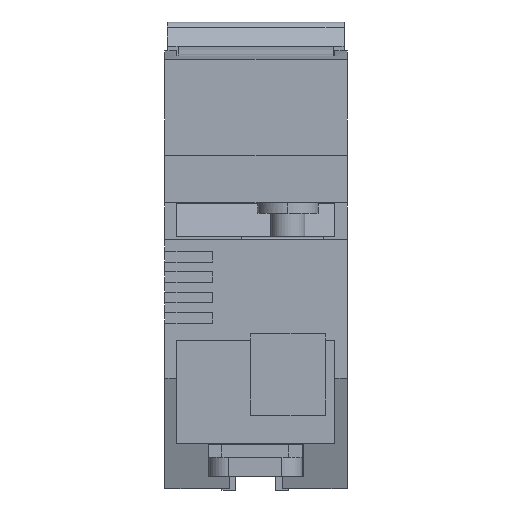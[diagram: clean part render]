
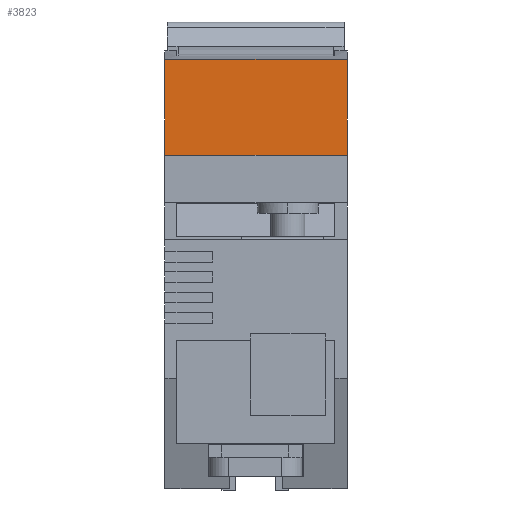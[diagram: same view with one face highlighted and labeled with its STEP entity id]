
A CAD part, front view. The second image highlights one B-rep face of the part: STEP entity #3823.
In plain terms, the highlighted planar face has unit normal (0, -1, 0).
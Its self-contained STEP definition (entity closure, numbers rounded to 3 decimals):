
#199=DIRECTION('',(0.,0.,-1.));
#200=VECTOR('',#199,14.088);
#201=CARTESIAN_POINT('',(-13.4,-22.249,30.693));
#202=LINE('',#201,#200);
#1091=DIRECTION('',(0.,0.,-1.));
#1092=VECTOR('',#1091,14.088);
#1093=CARTESIAN_POINT('',(13.4,-22.249,30.693));
#1094=LINE('',#1093,#1092);
#1206=DIRECTION('',(1.,0.,0.));
#1207=VECTOR('',#1206,26.8);
#1208=CARTESIAN_POINT('',(-13.4,-22.249,16.605));
#1209=LINE('',#1208,#1207);
#1220=DIRECTION('',(1.,0.,0.));
#1221=VECTOR('',#1220,26.8);
#1222=CARTESIAN_POINT('',(-13.4,-22.249,30.693));
#1223=LINE('',#1222,#1221);
#1686=CARTESIAN_POINT('',(-13.4,-22.249,30.693));
#1687=VERTEX_POINT('',#1686);
#1688=CARTESIAN_POINT('',(-13.4,-22.249,16.605));
#1689=VERTEX_POINT('',#1688);
#1732=CARTESIAN_POINT('',(13.4,-22.249,30.693));
#1733=VERTEX_POINT('',#1732);
#1734=CARTESIAN_POINT('',(13.4,-22.249,16.605));
#1735=VERTEX_POINT('',#1734);
#3811=CARTESIAN_POINT('',(-13.4,-22.249,30.693));
#3812=DIRECTION('',(0.,-1.,0.));
#3813=DIRECTION('',(0.,0.,-1.));
#3814=AXIS2_PLACEMENT_3D('',#3811,#3812,#3813);
#3815=PLANE('',#3814);
#3816=ORIENTED_EDGE('',*,*,#2335,.F.);
#3818=ORIENTED_EDGE('',*,*,#3817,.T.);
#3819=ORIENTED_EDGE('',*,*,#3678,.T.);
#3820=ORIENTED_EDGE('',*,*,#3798,.F.);
#3821=EDGE_LOOP('',(#3816,#3818,#3819,#3820));
#3822=FACE_OUTER_BOUND('',#3821,.F.);
#3823=ADVANCED_FACE('',(#3822),#3815,.T.);
#2335=EDGE_CURVE('',#1687,#1689,#202,.T.);
#3678=EDGE_CURVE('',#1733,#1735,#1094,.T.);
#3798=EDGE_CURVE('',#1689,#1735,#1209,.T.);
#3817=EDGE_CURVE('',#1687,#1733,#1223,.T.);
